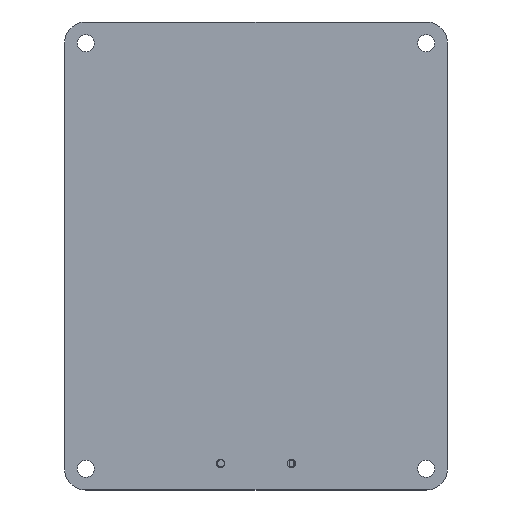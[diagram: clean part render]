
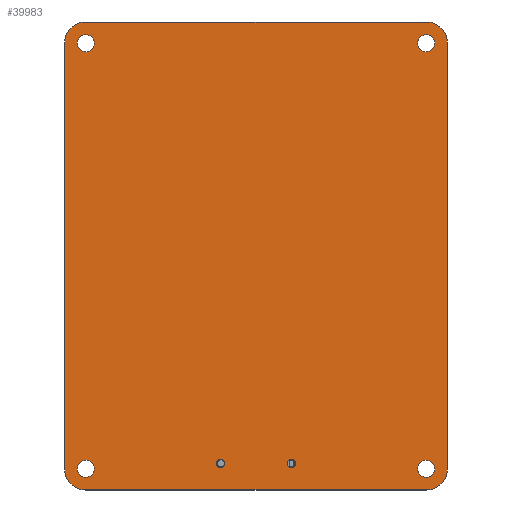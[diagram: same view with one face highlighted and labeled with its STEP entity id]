
A CAD part, top view. The second image highlights one B-rep face of the part: STEP entity #39983.
In plain terms, the highlighted planar face has unit normal (0, 0, 1).
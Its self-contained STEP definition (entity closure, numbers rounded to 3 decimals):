
#39768 = VERTEX_POINT('',#39769);
#39769 = CARTESIAN_POINT('',(167.,-50.,1.51));
#39775 = EDGE_CURVE('',#39768,#39776,#39778,.T.);
#39776 = VERTEX_POINT('',#39777);
#39777 = CARTESIAN_POINT('',(171.,-54.,1.51));
#39778 = CIRCLE('',#39779,4.);
#39779 = AXIS2_PLACEMENT_3D('',#39780,#39781,#39782);
#39780 = CARTESIAN_POINT('',(167.,-54.,1.51));
#39781 = DIRECTION('',(0.,0.,-1.));
#39782 = DIRECTION('',(0.,1.,0.));
#39810 = VERTEX_POINT('',#39811);
#39811 = CARTESIAN_POINT('',(103.,-50.,1.51));
#39817 = EDGE_CURVE('',#39810,#39768,#39818,.T.);
#39818 = LINE('',#39819,#39820);
#39819 = CARTESIAN_POINT('',(103.,-50.,1.51));
#39820 = VECTOR('',#39821,1.);
#39821 = DIRECTION('',(1.,0.,0.));
#39839 = EDGE_CURVE('',#39776,#39840,#39842,.T.);
#39840 = VERTEX_POINT('',#39841);
#39841 = CARTESIAN_POINT('',(171.,-134.,1.51));
#39842 = LINE('',#39843,#39844);
#39843 = CARTESIAN_POINT('',(171.,-54.,1.51));
#39844 = VECTOR('',#39845,1.);
#39845 = DIRECTION('',(0.,-1.,0.));
#39983 = ADVANCED_FACE('',(#39984,#40030,#40041,#40052,#40063,#40074,
    #40085),#40096,.T.);
#39984 = FACE_BOUND('',#39985,.T.);
#39985 = EDGE_LOOP('',(#39986,#39987,#39988,#39997,#40005,#40014,#40022,
    #40029));
#39986 = ORIENTED_EDGE('',*,*,#39775,.F.);
#39987 = ORIENTED_EDGE('',*,*,#39817,.F.);
#39988 = ORIENTED_EDGE('',*,*,#39989,.F.);
#39989 = EDGE_CURVE('',#39990,#39810,#39992,.T.);
#39990 = VERTEX_POINT('',#39991);
#39991 = CARTESIAN_POINT('',(99.,-54.,1.51));
#39992 = CIRCLE('',#39993,4.);
#39993 = AXIS2_PLACEMENT_3D('',#39994,#39995,#39996);
#39994 = CARTESIAN_POINT('',(103.,-54.,1.51));
#39995 = DIRECTION('',(0.,0.,-1.));
#39996 = DIRECTION('',(-1.,0.,0.));
#39997 = ORIENTED_EDGE('',*,*,#39998,.F.);
#39998 = EDGE_CURVE('',#39999,#39990,#40001,.T.);
#39999 = VERTEX_POINT('',#40000);
#40000 = CARTESIAN_POINT('',(99.,-134.,1.51));
#40001 = LINE('',#40002,#40003);
#40002 = CARTESIAN_POINT('',(99.,-134.,1.51));
#40003 = VECTOR('',#40004,1.);
#40004 = DIRECTION('',(0.,1.,0.));
#40005 = ORIENTED_EDGE('',*,*,#40006,.F.);
#40006 = EDGE_CURVE('',#40007,#39999,#40009,.T.);
#40007 = VERTEX_POINT('',#40008);
#40008 = CARTESIAN_POINT('',(103.,-138.,1.51));
#40009 = CIRCLE('',#40010,4.);
#40010 = AXIS2_PLACEMENT_3D('',#40011,#40012,#40013);
#40011 = CARTESIAN_POINT('',(103.,-134.,1.51));
#40012 = DIRECTION('',(0.,0.,-1.));
#40013 = DIRECTION('',(0.,-1.,-0.));
#40014 = ORIENTED_EDGE('',*,*,#40015,.F.);
#40015 = EDGE_CURVE('',#40016,#40007,#40018,.T.);
#40016 = VERTEX_POINT('',#40017);
#40017 = CARTESIAN_POINT('',(167.,-138.,1.51));
#40018 = LINE('',#40019,#40020);
#40019 = CARTESIAN_POINT('',(167.,-138.,1.51));
#40020 = VECTOR('',#40021,1.);
#40021 = DIRECTION('',(-1.,0.,0.));
#40022 = ORIENTED_EDGE('',*,*,#40023,.F.);
#40023 = EDGE_CURVE('',#39840,#40016,#40024,.T.);
#40024 = CIRCLE('',#40025,4.);
#40025 = AXIS2_PLACEMENT_3D('',#40026,#40027,#40028);
#40026 = CARTESIAN_POINT('',(167.,-134.,1.51));
#40027 = DIRECTION('',(0.,0.,-1.));
#40028 = DIRECTION('',(1.,0.,0.));
#40029 = ORIENTED_EDGE('',*,*,#39839,.F.);
#40030 = FACE_BOUND('',#40031,.T.);
#40031 = EDGE_LOOP('',(#40032));
#40032 = ORIENTED_EDGE('',*,*,#40033,.T.);
#40033 = EDGE_CURVE('',#40034,#40034,#40036,.T.);
#40034 = VERTEX_POINT('',#40035);
#40035 = CARTESIAN_POINT('',(103.,-135.6,1.51));
#40036 = CIRCLE('',#40037,1.6);
#40037 = AXIS2_PLACEMENT_3D('',#40038,#40039,#40040);
#40038 = CARTESIAN_POINT('',(103.,-134.,1.51));
#40039 = DIRECTION('',(-0.,0.,-1.));
#40040 = DIRECTION('',(-0.,-1.,0.));
#40041 = FACE_BOUND('',#40042,.T.);
#40042 = EDGE_LOOP('',(#40043));
#40043 = ORIENTED_EDGE('',*,*,#40044,.T.);
#40044 = EDGE_CURVE('',#40045,#40045,#40047,.T.);
#40045 = VERTEX_POINT('',#40046);
#40046 = CARTESIAN_POINT('',(128.345,-133.8,1.51));
#40047 = CIRCLE('',#40048,0.8);
#40048 = AXIS2_PLACEMENT_3D('',#40049,#40050,#40051);
#40049 = CARTESIAN_POINT('',(128.345,-133.,1.51));
#40050 = DIRECTION('',(-0.,0.,-1.));
#40051 = DIRECTION('',(-0.,-1.,0.));
#40052 = FACE_BOUND('',#40053,.T.);
#40053 = EDGE_LOOP('',(#40054));
#40054 = ORIENTED_EDGE('',*,*,#40055,.T.);
#40055 = EDGE_CURVE('',#40056,#40056,#40058,.T.);
#40056 = VERTEX_POINT('',#40057);
#40057 = CARTESIAN_POINT('',(141.655,-133.8,1.51));
#40058 = CIRCLE('',#40059,0.8);
#40059 = AXIS2_PLACEMENT_3D('',#40060,#40061,#40062);
#40060 = CARTESIAN_POINT('',(141.655,-133.,1.51));
#40061 = DIRECTION('',(-0.,0.,-1.));
#40062 = DIRECTION('',(-0.,-1.,0.));
#40063 = FACE_BOUND('',#40064,.T.);
#40064 = EDGE_LOOP('',(#40065));
#40065 = ORIENTED_EDGE('',*,*,#40066,.T.);
#40066 = EDGE_CURVE('',#40067,#40067,#40069,.T.);
#40067 = VERTEX_POINT('',#40068);
#40068 = CARTESIAN_POINT('',(167.,-135.6,1.51));
#40069 = CIRCLE('',#40070,1.6);
#40070 = AXIS2_PLACEMENT_3D('',#40071,#40072,#40073);
#40071 = CARTESIAN_POINT('',(167.,-134.,1.51));
#40072 = DIRECTION('',(-0.,0.,-1.));
#40073 = DIRECTION('',(-0.,-1.,0.));
#40074 = FACE_BOUND('',#40075,.T.);
#40075 = EDGE_LOOP('',(#40076));
#40076 = ORIENTED_EDGE('',*,*,#40077,.T.);
#40077 = EDGE_CURVE('',#40078,#40078,#40080,.T.);
#40078 = VERTEX_POINT('',#40079);
#40079 = CARTESIAN_POINT('',(103.,-55.6,1.51));
#40080 = CIRCLE('',#40081,1.6);
#40081 = AXIS2_PLACEMENT_3D('',#40082,#40083,#40084);
#40082 = CARTESIAN_POINT('',(103.,-54.,1.51));
#40083 = DIRECTION('',(-0.,0.,-1.));
#40084 = DIRECTION('',(-0.,-1.,0.));
#40085 = FACE_BOUND('',#40086,.T.);
#40086 = EDGE_LOOP('',(#40087));
#40087 = ORIENTED_EDGE('',*,*,#40088,.T.);
#40088 = EDGE_CURVE('',#40089,#40089,#40091,.T.);
#40089 = VERTEX_POINT('',#40090);
#40090 = CARTESIAN_POINT('',(167.,-55.6,1.51));
#40091 = CIRCLE('',#40092,1.6);
#40092 = AXIS2_PLACEMENT_3D('',#40093,#40094,#40095);
#40093 = CARTESIAN_POINT('',(167.,-54.,1.51));
#40094 = DIRECTION('',(-0.,0.,-1.));
#40095 = DIRECTION('',(-0.,-1.,0.));
#40096 = PLANE('',#40097);
#40097 = AXIS2_PLACEMENT_3D('',#40098,#40099,#40100);
#40098 = CARTESIAN_POINT('',(0.,0.,1.51));
#40099 = DIRECTION('',(0.,0.,1.));
#40100 = DIRECTION('',(1.,0.,-0.));
